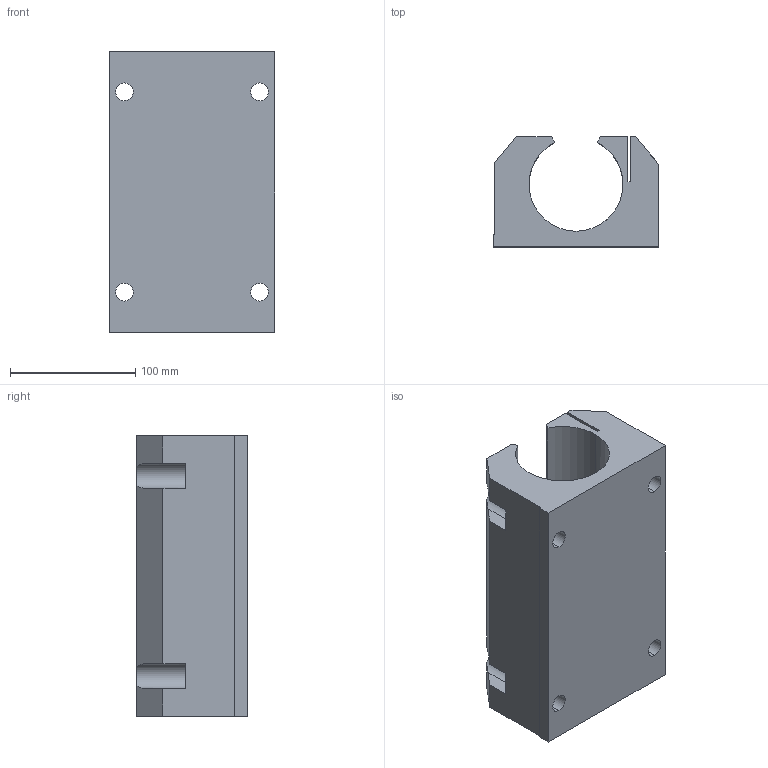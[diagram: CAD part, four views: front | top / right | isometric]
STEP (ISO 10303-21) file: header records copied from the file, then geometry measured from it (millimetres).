
FILE_DESCRIPTION (( 'STEP AP214' ), '1' );
FILE_NAME ('KTGOE34-50.step', '2020-03-04T13:29:29', ( '' ), ( '' ), 'SwSTEP 2.0', 'SolidWorks 2019', '' );
FILE_SCHEMA (( 'AUTOMOTIVE_DESIGN' ));
Length unit declared in the file: millimetre
Products named in the file (1): KTGOE34-50
Bounding box: 132 x 88 x 224 mm (x, y, z)
Volume: 1394581.9 mm3; surface area: 175623.8 mm2
Topology: 1 solids, 1 shells, 68 faces, 188 edges, 124 vertices
Faces by surface type: plane 35, cylinder 31, cone 2
Entity records: 2604 total; most frequent: CARTESIAN_POINT 593, ORIENTED_EDGE 376, DIRECTION 360, EDGE_CURVE 188, VERTEX_POINT 124, AXIS2_PLACEMENT_3D 121, LINE 118, VECTOR 118
